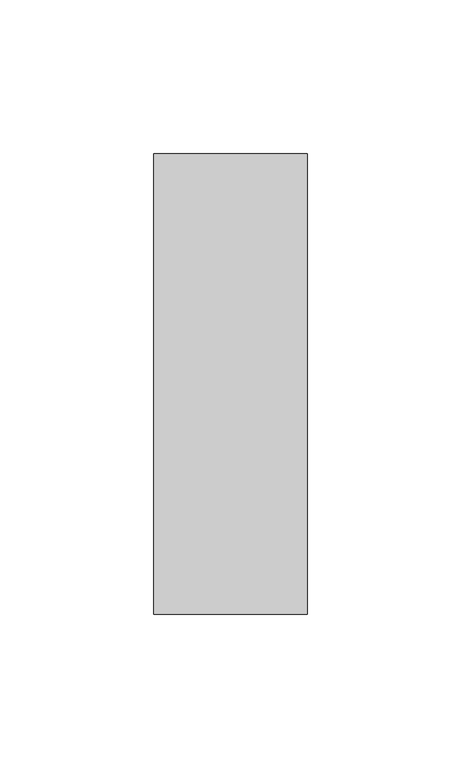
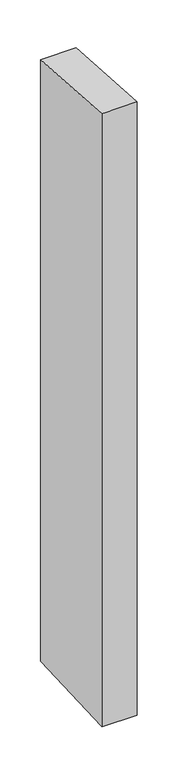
"""IFC4 building model written with IfcOpenShell, lengths in millimetres: member geometry, Прямоугольный импост : 50 x 150 мм."""

from ifc_helpers import new_model, si_unit, origin, place, context, project, spatial, faceted_brep, source, transform, mapped, element, save


def member_17c1cd7f(model_context):
    return source(origin(), model_context, "Body", "Brep", [
        faceted_brep([(-25.0, 75.0, -5.3035604), (25.0, 75.0, -4.9004379), (25.0, 75.0, -905.4729364), (-25.0, 75.0, -905.0120011), (-25.0, -75.0, 4.9004379), (-25.0, -75.0, -911.8926114), (25.0, -75.0, 5.3035604), (25.0, -75.0, -912.3535466)], [[[0, 1, 2, 3]], [[4, 0, 3, 5]], [[6, 4, 5, 7]], [[1, 6, 7, 2]], [[1, 0, 4, 6]], [[2, 7, 5, 3]]]),
    ])


if __name__ == "__main__":
    model = new_model("IFC4")
    model_context = context("Model", 3, world=origin())
    ifc_project = project(units=[si_unit("LENGTHUNIT", "METRE", prefix="MILLI")], contexts=[model_context])
    site = spatial("IfcSite", under=ifc_project)
    building = spatial("IfcBuilding", under=site)
    placement = place(None, origin())
    member_shape = member_17c1cd7f(model_context)
    element("IfcMember", 1, ObjectType="Прямоугольный импост : 50 x 150 мм", at=placement, inside=building, context=model_context, shape_type="MappedRepresentation", body=[
        mapped(member_shape, transform((0.0, 0.0, 0.0), x_axis=(1.0, 0.0, 0.0), y_axis=(0.0, 1.0, 0.0), z_axis=(0.0, 0.0, 1.0))),
    ])
    save(model, "model.ifc")
